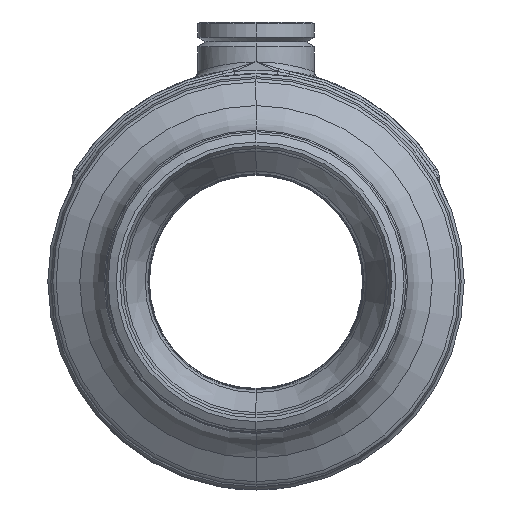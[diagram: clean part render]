
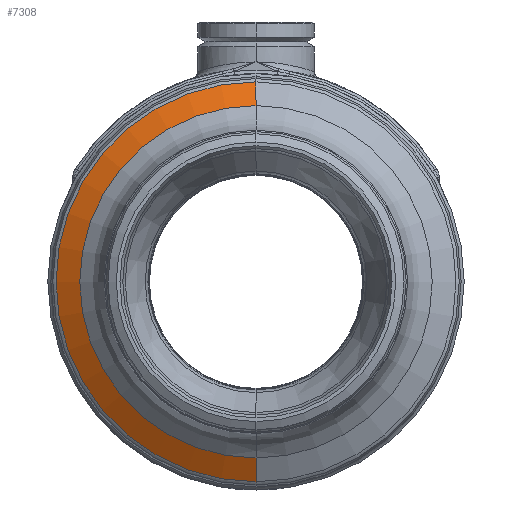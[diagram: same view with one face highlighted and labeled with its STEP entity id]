
A CAD part, left-side view. The second image highlights one B-rep face of the part: STEP entity #7308.
In plain terms, the highlighted conical face has half-angle 59.534 degrees and reference radius 56.465 mm.
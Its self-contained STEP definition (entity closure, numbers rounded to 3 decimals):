
#1205=CARTESIAN_POINT('',(-51.45,0.,0.));
#1206=DIRECTION('',(1.,0.,0.));
#1207=DIRECTION('',(0.,0.,-1.));
#1208=AXIS2_PLACEMENT_3D('',#1205,#1206,#1207);
#1210=CARTESIAN_POINT('',(-55.65,0.,0.));
#1211=DIRECTION('',(1.,0.,0.));
#1212=DIRECTION('',(0.,0.,-1.));
#1213=AXIS2_PLACEMENT_3D('',#1210,#1211,#1212);
#1220=DIRECTION('',(-0.507,0.,0.862));
#1221=VECTOR('',#1220,8.284);
#1222=CARTESIAN_POINT('',(-51.45,0.,-60.035));
#1223=LINE('',#1222,#1221);
#1229=DIRECTION('',(-0.507,0.,-0.862));
#1230=VECTOR('',#1229,8.284);
#1231=CARTESIAN_POINT('',(-51.45,0.,
60.035));
#1232=LINE('',#1231,#1230);
#5844=CARTESIAN_POINT('',(-51.45,0.,-60.035));
#5845=CARTESIAN_POINT('',(-51.45,0.,
60.035));
#5846=VERTEX_POINT('',#5844);
#5847=VERTEX_POINT('',#5845);
#5852=CARTESIAN_POINT('',(-55.65,0.,52.895));
#5853=VERTEX_POINT('',#5852);
#5854=CARTESIAN_POINT('',(-55.65,0.,-52.895));
#5855=VERTEX_POINT('',#5854);
#7294=CARTESIAN_POINT('',(-53.55,0.,0.));
#7295=DIRECTION('',(1.,0.,0.));
#7296=DIRECTION('',(0.,0.,1.));
#7297=AXIS2_PLACEMENT_3D('',#7294,#7295,#7296);
#7298=CONICAL_SURFACE('',#7297,56.465,59.534);
#7299=ORIENTED_EDGE('',*,*,#7288,.T.);
#7301=ORIENTED_EDGE('',*,*,#7300,.T.);
#7303=ORIENTED_EDGE('',*,*,#7302,.F.);
#7305=ORIENTED_EDGE('',*,*,#7304,.F.);
#7306=EDGE_LOOP('',(#7299,#7301,#7303,#7305));
#7307=FACE_OUTER_BOUND('',#7306,.F.);
#7308=ADVANCED_FACE('',(#7307),#7298,.T.);
#1209=CIRCLE('',#1208,60.035);
#1214=CIRCLE('',#1213,52.895);
#7288=EDGE_CURVE('',#5846,#5847,#1209,.T.);
#7300=EDGE_CURVE('',#5847,#5853,#1232,.T.);
#7302=EDGE_CURVE('',#5855,#5853,#1214,.T.);
#7304=EDGE_CURVE('',#5846,#5855,#1223,.T.);
